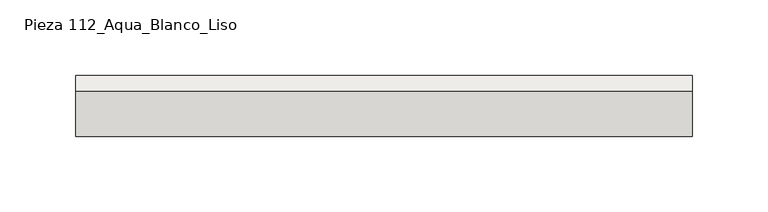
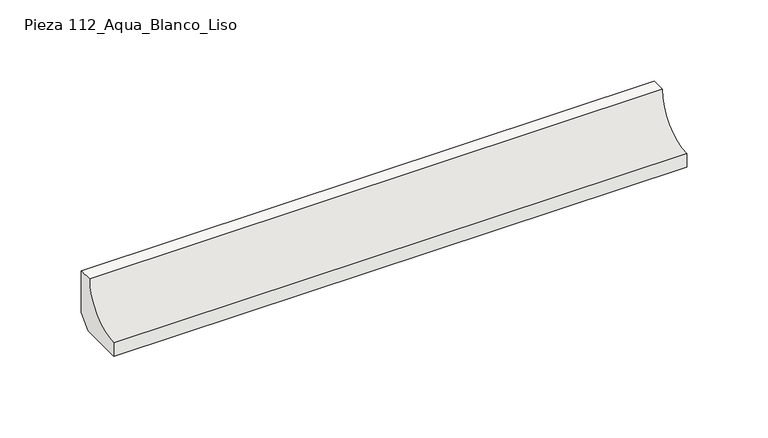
"""IFC4 building model written with IfcOpenShell, lengths in millimetres: slab geometry, ROSA GRES_112 : Pieza 112_Aqua_Blanco_Liso."""

from ifc_helpers import new_model, si_unit, point, frame, frame_2d, origin, place, context, project, spatial, polyline, circle_curve, trimmed, segment, composite_curve, outline, extrude, source, transform, mapped, element, save


def pieza_112_aqua_blanco_liso_e9111371(model_context):
    return source(origin(), model_context, "Body", "SweptSolid", [
        extrude(outline(composite_curve([segment(polyline([(9.9734114, 8.7114978), (1.2619137, 0.0), (-30.0265886, 0.0), (-30.0265886, 9.9734114)]), True, "CONTINUOUS"), segment(trimmed(circle_curve(frame_2d((-30.0221432, 39.9955547)), 30.0221435), [point((-30.0265886, 9.9734114))], [point((0.0, 40.0))], True, "CARTESIAN"), True, "CONTINUOUS"), segment(polyline([(0.0, 40.0), (9.9734114, 40.0), (9.9734114, 8.7114978)]), True, "CONTINUOUS")], self_intersect=False)), frame((0.0, 0.0, 0.0), z_axis=(1.0, 0.0, 0.0), x_axis=(0.0, 1.0, 0.0)), (0.0, 0.0, 1.0), 406.1379887),
    ])


if __name__ == "__main__":
    model = new_model("IFC4")
    model_context = context("Model", 3, world=origin())
    ifc_project = project(units=[si_unit("LENGTHUNIT", "METRE", prefix="MILLI")], contexts=[model_context])
    site = spatial("IfcSite", under=ifc_project)
    building = spatial("IfcBuilding", under=site)
    placement = place(None, origin())
    pieza_112_aqua_blanco_liso_shape = pieza_112_aqua_blanco_liso_e9111371(model_context)
    element("IfcSlab", 1, ObjectType="ROSA GRES_112 : Pieza 112_Aqua_Blanco_Liso", at=placement, inside=building, context=model_context, shape_type="MappedRepresentation", body=[
        mapped(pieza_112_aqua_blanco_liso_shape, transform((0.0, 0.0, 0.0), x_axis=(1.0, 0.0, 0.0), y_axis=(0.0, 1.0, 0.0), z_axis=(0.0, 0.0, 1.0))),
    ])
    save(model, "model.ifc")
